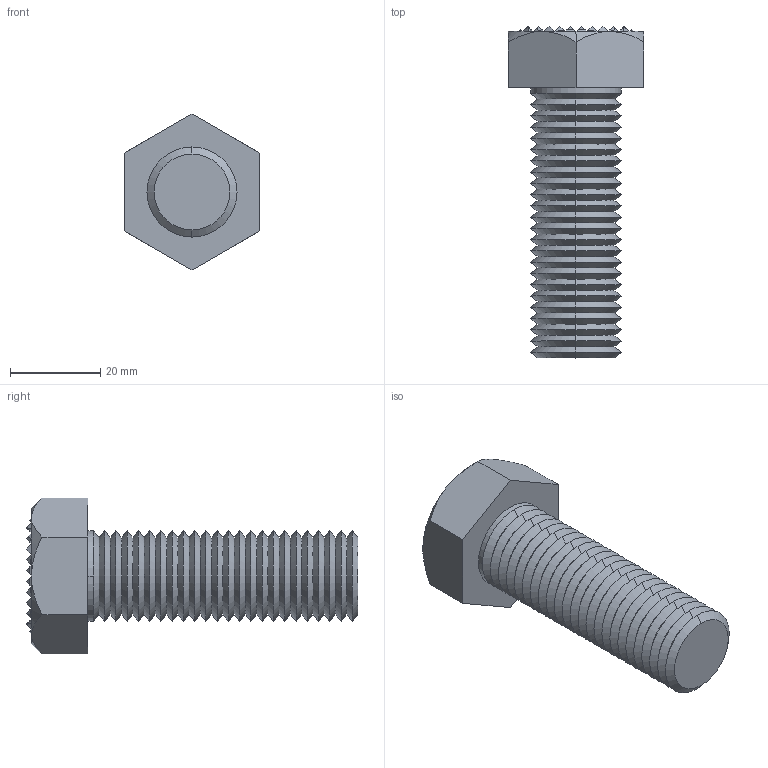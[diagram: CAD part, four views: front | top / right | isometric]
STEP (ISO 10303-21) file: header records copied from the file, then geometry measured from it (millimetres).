
FILE_DESCRIPTION (( 'STEP AP203' ), '1' );
FILE_NAME ('35400.W0014.step', '2017-07-03T07:22:53', ( 'User' ), ( '' ), 'SwSTEP 2.0', 'SolidWorks 2009', '' );
FILE_SCHEMA (( 'CONFIG_CONTROL_DESIGN' ));
Length unit declared in the file: millimetre
Products named in the file (1): 35400.W0014
Bounding box: 30 x 73.7 x 34.64 mm (x, y, z)
Volume: 26010.5 mm3; surface area: 8458.5 mm2
Topology: 1 solids, 1 shells, 556 faces, 944 edges, 392 vertices
Faces by surface type: plane 409, cone 145, cylinder 2
Entity records: 12142 total; most frequent: CARTESIAN_POINT 2291, DIRECTION 2093, ORIENTED_EDGE 1888, EDGE_CURVE 944, AXIS2_PLACEMENT_3D 708, LINE 677, VECTOR 677, EDGE_LOOP 558
